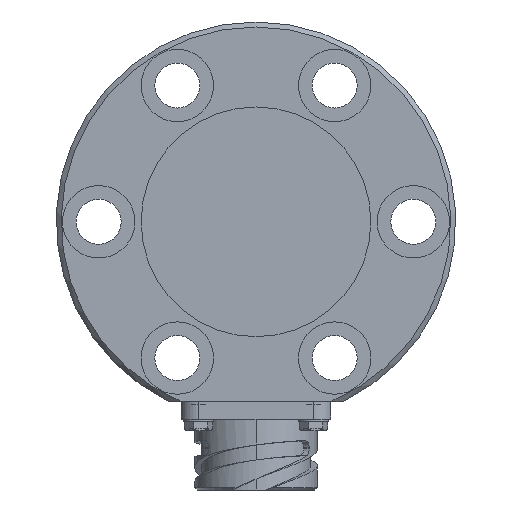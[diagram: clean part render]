
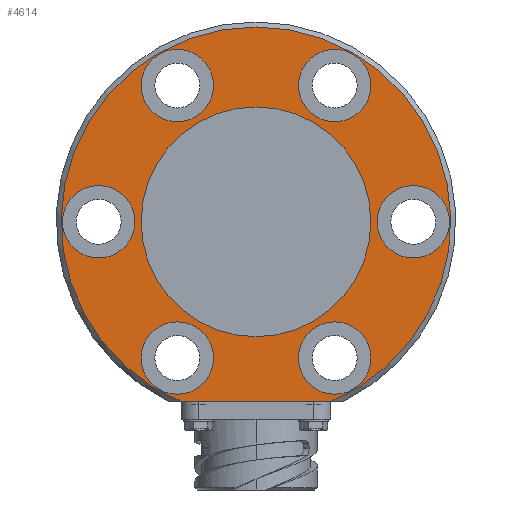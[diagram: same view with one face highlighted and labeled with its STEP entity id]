
A CAD part, left-side view. The second image highlights one B-rep face of the part: STEP entity #4614.
In plain terms, the highlighted planar face has unit normal (-1, 0, 0).
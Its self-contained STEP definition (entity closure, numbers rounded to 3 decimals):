
#151=CARTESIAN_POINT('',(0.,-14.997,
-36.));
#181=CARTESIAN_POINT('',(0.,14.998,
-36.));
#643=DIRECTION('',(0.,1.,0.));
#644=VECTOR('',#643,29.995);
#645=CARTESIAN_POINT('',(0.,-14.997,
-36.));
#646=LINE('',#645,#644);
#647=CARTESIAN_POINT('',(0.,0.,
0.));
#648=DIRECTION('',(1.,0.,0.));
#649=DIRECTION('',(0.,0.385,-0.923));
#650=AXIS2_PLACEMENT_3D('',#647,#648,#649);
#652=CARTESIAN_POINT('',(0.,0.,
0.));
#653=DIRECTION('',(1.,0.,0.));
#654=DIRECTION('',(0.,0.,1.));
#655=AXIS2_PLACEMENT_3D('',#652,#653,#654);
#657=CARTESIAN_POINT('',(0.,0.,0.));
#658=DIRECTION('',(-1.,0.,0.));
#659=DIRECTION('',(0.,-1.,0.));
#660=AXIS2_PLACEMENT_3D('',#657,#658,#659);
#662=CARTESIAN_POINT('',(0.,0.,0.));
#663=DIRECTION('',(-1.,0.,0.));
#664=DIRECTION('',(0.,1.,0.));
#665=AXIS2_PLACEMENT_3D('',#662,#663,#664);
#667=CARTESIAN_POINT('',(0.,-15.75,27.28));
#668=DIRECTION('',(-1.,0.,0.));
#669=DIRECTION('',(0.,1.,0.));
#670=AXIS2_PLACEMENT_3D('',#667,#668,#669);
#672=CARTESIAN_POINT('',(0.,-15.75,27.28));
#673=DIRECTION('',(-1.,0.,0.));
#674=DIRECTION('',(0.,-1.,0.));
#675=AXIS2_PLACEMENT_3D('',#672,#673,#674);
#677=CARTESIAN_POINT('',(0.,15.75,27.28));
#678=DIRECTION('',(-1.,0.,0.));
#679=DIRECTION('',(0.,0.5,-0.866));
#680=AXIS2_PLACEMENT_3D('',#677,#678,#679);
#682=CARTESIAN_POINT('',(0.,15.75,27.28));
#683=DIRECTION('',(-1.,0.,0.));
#684=DIRECTION('',(0.,-0.5,0.866));
#685=AXIS2_PLACEMENT_3D('',#682,#683,#684);
#687=CARTESIAN_POINT('',(0.,31.5,0.));
#688=DIRECTION('',(-1.,0.,0.));
#689=DIRECTION('',(0.,-0.5,-0.866));
#690=AXIS2_PLACEMENT_3D('',#687,#688,#689);
#692=CARTESIAN_POINT('',(0.,31.5,0.));
#693=DIRECTION('',(-1.,0.,0.));
#694=DIRECTION('',(0.,0.5,0.866));
#695=AXIS2_PLACEMENT_3D('',#692,#693,#694);
#697=CARTESIAN_POINT('',(0.,15.75,-27.28));
#698=DIRECTION('',(-1.,0.,0.));
#699=DIRECTION('',(0.,-1.,0.));
#700=AXIS2_PLACEMENT_3D('',#697,#698,#699);
#702=CARTESIAN_POINT('',(0.,15.75,-27.28));
#703=DIRECTION('',(-1.,0.,0.));
#704=DIRECTION('',(0.,1.,0.));
#705=AXIS2_PLACEMENT_3D('',#702,#703,#704);
#707=CARTESIAN_POINT('',(0.,-15.75,-27.28));
#708=DIRECTION('',(-1.,0.,0.));
#709=DIRECTION('',(0.,-0.5,0.866));
#710=AXIS2_PLACEMENT_3D('',#707,#708,#709);
#712=CARTESIAN_POINT('',(0.,-15.75,-27.28));
#713=DIRECTION('',(-1.,0.,0.));
#714=DIRECTION('',(0.,0.5,-0.866));
#715=AXIS2_PLACEMENT_3D('',#712,#713,#714);
#717=CARTESIAN_POINT('',(0.,-31.5,0.));
#718=DIRECTION('',(-1.,0.,0.));
#719=DIRECTION('',(0.,0.5,0.866));
#720=AXIS2_PLACEMENT_3D('',#717,#718,#719);
#722=CARTESIAN_POINT('',(0.,-31.5,0.));
#723=DIRECTION('',(-1.,0.,0.));
#724=DIRECTION('',(0.,-0.5,-0.866));
#725=AXIS2_PLACEMENT_3D('',#722,#723,#724);
#3376=VERTEX_POINT('',#151);
#3386=VERTEX_POINT('',#181);
#3389=CARTESIAN_POINT('',(0.,0.,
38.999));
#3390=VERTEX_POINT('',#3389);
#3511=CARTESIAN_POINT('',(0.,-8.5,27.28));
#3512=CARTESIAN_POINT('',(0.,-23.,27.28));
#3513=VERTEX_POINT('',#3511);
#3514=VERTEX_POINT('',#3512);
#3515=CARTESIAN_POINT('',(0.,-23.,0.));
#3516=CARTESIAN_POINT('',(0.,23.,0.));
#3517=VERTEX_POINT('',#3515);
#3518=VERTEX_POINT('',#3516);
#3519=CARTESIAN_POINT('',(0.,19.375,21.001));
#3520=CARTESIAN_POINT('',(0.,12.125,33.558));
#3521=VERTEX_POINT('',#3519);
#3522=VERTEX_POINT('',#3520);
#3523=CARTESIAN_POINT('',(0.,27.875,-6.279));
#3524=CARTESIAN_POINT('',(0.,35.125,6.279));
#3525=VERTEX_POINT('',#3523);
#3526=VERTEX_POINT('',#3524);
#3527=CARTESIAN_POINT('',(0.,8.5,-27.28));
#3528=CARTESIAN_POINT('',(0.,23.,-27.28));
#3529=VERTEX_POINT('',#3527);
#3530=VERTEX_POINT('',#3528);
#3531=CARTESIAN_POINT('',(0.,-19.375,-21.001));
#3532=CARTESIAN_POINT('',(0.,-12.125,-33.558));
#3533=VERTEX_POINT('',#3531);
#3534=VERTEX_POINT('',#3532);
#3535=CARTESIAN_POINT('',(0.,-27.875,6.279));
#3536=CARTESIAN_POINT('',(0.,-35.125,-6.279));
#3537=VERTEX_POINT('',#3535);
#3538=VERTEX_POINT('',#3536);
#4563=CARTESIAN_POINT('',(0.,0.,0.));
#4564=DIRECTION('',(-1.,0.,0.));
#4565=DIRECTION('',(0.,0.,-1.));
#4566=AXIS2_PLACEMENT_3D('',#4563,#4564,#4565);
#4567=PLANE('',#4566);
#4568=ORIENTED_EDGE('',*,*,#3908,.T.);
#4569=ORIENTED_EDGE('',*,*,#3935,.T.);
#4570=ORIENTED_EDGE('',*,*,#3933,.T.);
#4571=EDGE_LOOP('',(#4568,#4569,#4570));
#4572=FACE_OUTER_BOUND('',#4571,.F.);
#4574=ORIENTED_EDGE('',*,*,#4573,.T.);
#4576=ORIENTED_EDGE('',*,*,#4575,.T.);
#4577=EDGE_LOOP('',(#4574,#4576));
#4578=FACE_BOUND('',#4577,.F.);
#4579=ORIENTED_EDGE('',*,*,#4553,.T.);
#4581=ORIENTED_EDGE('',*,*,#4580,.T.);
#4582=EDGE_LOOP('',(#4579,#4581));
#4583=FACE_BOUND('',#4582,.F.);
#4585=ORIENTED_EDGE('',*,*,#4584,.T.);
#4587=ORIENTED_EDGE('',*,*,#4586,.T.);
#4588=EDGE_LOOP('',(#4585,#4587));
#4589=FACE_BOUND('',#4588,.F.);
#4591=ORIENTED_EDGE('',*,*,#4590,.T.);
#4593=ORIENTED_EDGE('',*,*,#4592,.T.);
#4594=EDGE_LOOP('',(#4591,#4593));
#4595=FACE_BOUND('',#4594,.F.);
#4597=ORIENTED_EDGE('',*,*,#4596,.T.);
#4599=ORIENTED_EDGE('',*,*,#4598,.T.);
#4600=EDGE_LOOP('',(#4597,#4599));
#4601=FACE_BOUND('',#4600,.F.);
#4603=ORIENTED_EDGE('',*,*,#4602,.T.);
#4605=ORIENTED_EDGE('',*,*,#4604,.T.);
#4606=EDGE_LOOP('',(#4603,#4605));
#4607=FACE_BOUND('',#4606,.F.);
#4609=ORIENTED_EDGE('',*,*,#4608,.T.);
#4611=ORIENTED_EDGE('',*,*,#4610,.T.);
#4612=EDGE_LOOP('',(#4609,#4611));
#4613=FACE_BOUND('',#4612,.F.);
#4614=ADVANCED_FACE('',(#4572,#4578,#4583,#4589,#4595,#4601,#4607,#4613),#4567,
.T.);
#651=CIRCLE('',#650,38.999);
#656=CIRCLE('',#655,38.999);
#661=CIRCLE('',#660,23.);
#666=CIRCLE('',#665,23.);
#671=CIRCLE('',#670,7.25);
#676=CIRCLE('',#675,7.25);
#681=CIRCLE('',#680,7.25);
#686=CIRCLE('',#685,7.25);
#691=CIRCLE('',#690,7.25);
#696=CIRCLE('',#695,7.25);
#701=CIRCLE('',#700,7.25);
#706=CIRCLE('',#705,7.25);
#711=CIRCLE('',#710,7.25);
#716=CIRCLE('',#715,7.25);
#721=CIRCLE('',#720,7.25);
#726=CIRCLE('',#725,7.25);
#3908=EDGE_CURVE('',#3376,#3386,#646,.T.);
#3933=EDGE_CURVE('',#3390,#3376,#656,.T.);
#3935=EDGE_CURVE('',#3386,#3390,#651,.T.);
#4553=EDGE_CURVE('',#3513,#3514,#671,.T.);
#4573=EDGE_CURVE('',#3517,#3518,#661,.T.);
#4575=EDGE_CURVE('',#3518,#3517,#666,.T.);
#4580=EDGE_CURVE('',#3514,#3513,#676,.T.);
#4584=EDGE_CURVE('',#3521,#3522,#681,.T.);
#4586=EDGE_CURVE('',#3522,#3521,#686,.T.);
#4590=EDGE_CURVE('',#3525,#3526,#691,.T.);
#4592=EDGE_CURVE('',#3526,#3525,#696,.T.);
#4596=EDGE_CURVE('',#3529,#3530,#701,.T.);
#4598=EDGE_CURVE('',#3530,#3529,#706,.T.);
#4602=EDGE_CURVE('',#3533,#3534,#711,.T.);
#4604=EDGE_CURVE('',#3534,#3533,#716,.T.);
#4608=EDGE_CURVE('',#3537,#3538,#721,.T.);
#4610=EDGE_CURVE('',#3538,#3537,#726,.T.);
